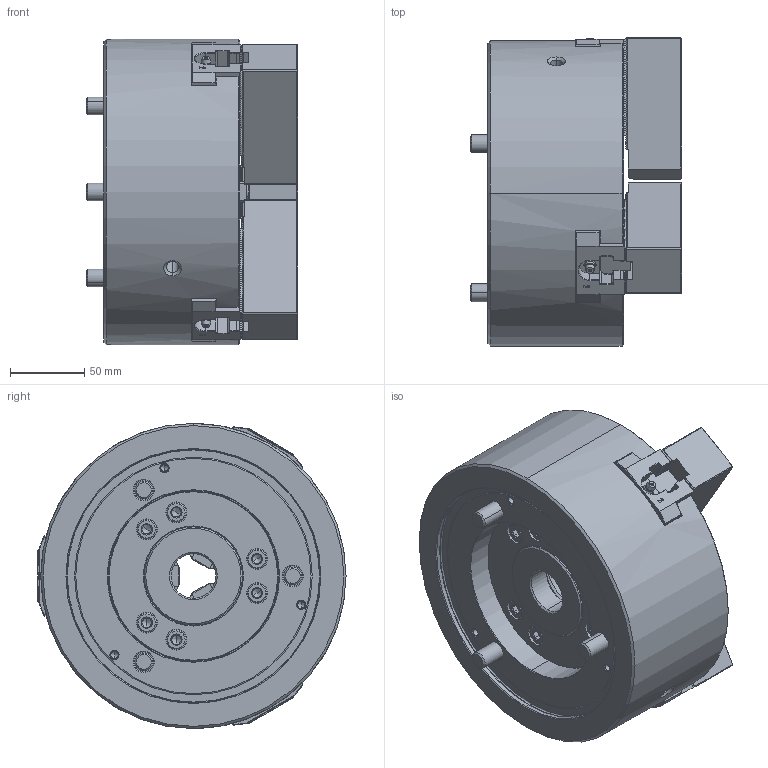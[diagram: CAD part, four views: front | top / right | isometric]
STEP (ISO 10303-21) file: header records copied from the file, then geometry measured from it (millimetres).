
FILE_DESCRIPTION (( 'STEP AP203' ), '1' );
FILE_NAME ('B-208M_UC.STEP', '2025-09-05T09:39:32', ( '' ), ( '' ), 'SwSTEP 2.0', 'SolidWorks 2022', '' );
FILE_SCHEMA (( 'CONFIG_CONTROL_DESIGN' ));
Length unit declared in the file: millimetre
Products named in the file (9): Copy of DEV-B-208M-Bアナツキボタン M5x10^DEV-B-208M-クミタテ; Copy of DEV-B-208M-ドローナット^DEV-B-208M-クミタテ_ねじ切りなし; Part1^DEV-B-208M-クミタテ; Copy of DEV-B-208M-Bアナツキ M12x30^DEV-B-208M-クミタテ; Copy of DEV-B-208M-カバー^DEV-B-208M-クミタテ; B-208M_UC; Copy of DEV-B-208M-ソフトジョー^DEV-B-208M-クミタテ; Copy of DEV-B-208M-Bアナツキ M12x90^DEV-B-208M-クミタテ; Copy of DEV-B-208M-Tナット^DEV-B-208M-クミタテ
Assembly tree (21 placements, depth 2):
  B-208M_UC
    Copy of DEV-B-208M-Bアナツキボタン M5x10^DEV-B-208M-クミタテ  x3
    Copy of DEV-B-208M-Bアナツキ M12x30^DEV-B-208M-クミタテ  x6
    Copy of DEV-B-208M-Bアナツキ M12x90^DEV-B-208M-クミタテ  x3
    Copy of DEV-B-208M-ソフトジョー^DEV-B-208M-クミタテ  x3
    Copy of DEV-B-208M-Tナット^DEV-B-208M-クミタテ  x3
    Copy of DEV-B-208M-ドローナット^DEV-B-208M-クミタテ_ねじ切りなし
    Copy of DEV-B-208M-カバー^DEV-B-208M-クミタテ
    Part1^DEV-B-208M-クミタテ
Bounding box: 142.2 x 206.89 x 205 mm (x, y, z)
Volume: 2892653.4 mm3; surface area: 332505.9 mm2
Topology: 21 solids, 33 shells, 4075 faces, 11366 edges, 7406 vertices
Faces by surface type: plane 2519, cylinder 978, cone 348, bspline 156, torus 66, sphere 8
Entity records: 92355 total; most frequent: CARTESIAN_POINT 24449, ORIENTED_EDGE 14816, DIRECTION 12506, EDGE_CURVE 7408, VECTOR 5370, LINE 5370, VERTEX_POINT 4835, AXIS2_PLACEMENT_3D 3568
